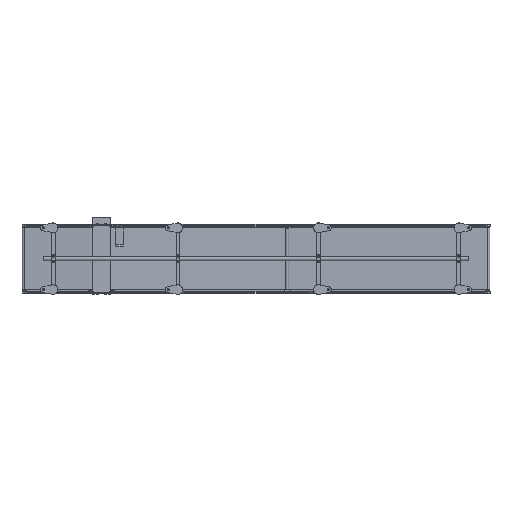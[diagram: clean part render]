
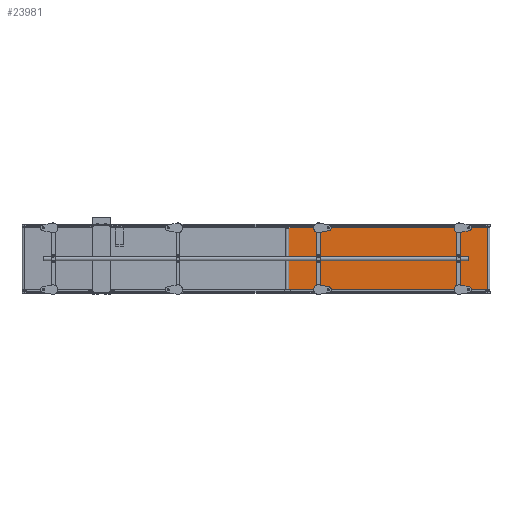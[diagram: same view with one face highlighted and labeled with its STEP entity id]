
A CAD part, front view. The second image highlights one B-rep face of the part: STEP entity #23981.
In plain terms, the highlighted planar face has unit normal (-0.006, -1, 0).
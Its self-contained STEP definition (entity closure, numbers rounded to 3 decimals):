
#3605 = VERTEX_POINT ( 'NONE', #61911 ) ;
#7506 = DIRECTION ( 'NONE',  ( 1., -0.006, 0. ) ) ;
#7958 = DIRECTION ( 'NONE',  ( -1., 0.006, 0. ) ) ;
#11867 = ORIENTED_EDGE ( 'NONE', *, *, #15546, .T. ) ;
#12532 = VECTOR ( 'NONE', #13157, 1000. ) ;
#13157 = DIRECTION ( 'NONE',  ( 1., -0.006, 0. ) ) ;
#15546 = EDGE_CURVE ( 'NONE', #3605, #52110, #74332, .T. ) ;
#16798 = EDGE_CURVE ( 'NONE', #59309, #3605, #82964, .T. ) ;
#22362 = LINE ( 'NONE', #59425, #71477 ) ;
#23981 = ADVANCED_FACE ( 'NONE', ( #28458 ), #34634, .F. ) ;
#28458 = FACE_OUTER_BOUND ( 'NONE', #39022, .T. ) ;
#31744 = EDGE_CURVE ( 'NONE', #65899, #52110, #54307, .T. ) ;
#34634 = PLANE ( 'NONE',  #76602 ) ;
#34854 = VECTOR ( 'NONE', #89456, 1000. ) ;
#35349 = ORIENTED_EDGE ( 'NONE', *, *, #31744, .F. ) ;
#39022 = EDGE_LOOP ( 'NONE', ( #11867, #35349, #80044, #78600 ) ) ;
#46406 = VECTOR ( 'NONE', #80417, 1000. ) ;
#51521 = DIRECTION ( 'NONE',  ( 0.006, 1., 0. ) ) ;
#52110 = VERTEX_POINT ( 'NONE', #79308 ) ;
#54307 = LINE ( 'NONE', #89791, #34854 ) ;
#57123 = CARTESIAN_POINT ( 'NONE',  ( 2985.914, -26., 200. ) ) ;
#59225 = CARTESIAN_POINT ( 'NONE',  ( 1700.058, -18.1, 200. ) ) ;
#59309 = VERTEX_POINT ( 'NONE', #79324 ) ;
#59425 = CARTESIAN_POINT ( 'NONE',  ( 1700.058, -18.1, 200. ) ) ;
#61911 = CARTESIAN_POINT ( 'NONE',  ( 1700.058, -18.1, -200. ) ) ;
#65136 = CARTESIAN_POINT ( 'NONE',  ( 1700.058, -18.1, 200. ) ) ;
#65899 = VERTEX_POINT ( 'NONE', #57123 ) ;
#71477 = VECTOR ( 'NONE', #7506, 1000. ) ;
#74332 = LINE ( 'NONE', #78090, #12532 ) ;
#76602 = AXIS2_PLACEMENT_3D ( 'NONE', #59225, #51521, #7958 ) ;
#78090 = CARTESIAN_POINT ( 'NONE',  ( 1700.058, -18.1, -200. ) ) ;
#78600 = ORIENTED_EDGE ( 'NONE', *, *, #16798, .T. ) ;
#79308 = CARTESIAN_POINT ( 'NONE',  ( 2985.914, -26., -200. ) ) ;
#79324 = CARTESIAN_POINT ( 'NONE',  ( 1700.058, -18.1, 200. ) ) ;
#80044 = ORIENTED_EDGE ( 'NONE', *, *, #85119, .F. ) ;
#80417 = DIRECTION ( 'NONE',  ( 0., 0., -1. ) ) ;
#82964 = LINE ( 'NONE', #65136, #46406 ) ;
#85119 = EDGE_CURVE ( 'NONE', #59309, #65899, #22362, .T. ) ;
#89456 = DIRECTION ( 'NONE',  ( 0., 0., -1. ) ) ;
#89791 = CARTESIAN_POINT ( 'NONE',  ( 2985.914, -26., 200. ) ) ;
